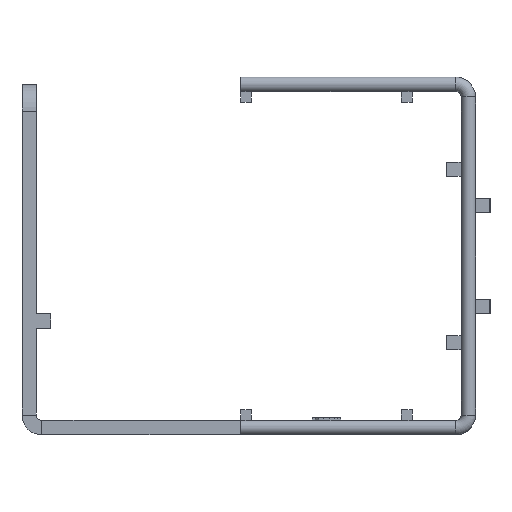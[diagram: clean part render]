
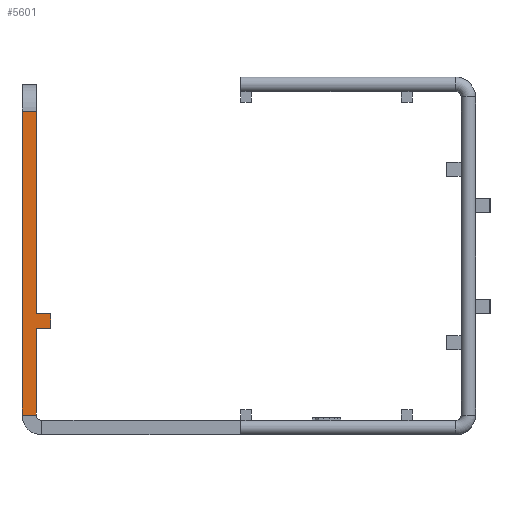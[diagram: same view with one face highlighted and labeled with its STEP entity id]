
A CAD part, left-side view. The second image highlights one B-rep face of the part: STEP entity #5601.
In plain terms, the highlighted planar face has unit normal (-1, 0, 0).
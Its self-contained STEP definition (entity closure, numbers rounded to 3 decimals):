
#199=FACE_OUTER_BOUND('',#509,.T.);
#509=EDGE_LOOP('',(#3839,#3840,#3841,#3842,#3843,#3844,#3845,#3846));
#888=LINE('',#8087,#1644);
#900=LINE('',#8118,#1656);
#906=LINE('',#8130,#1662);
#921=LINE('',#8161,#1677);
#923=LINE('',#8167,#1679);
#926=LINE('',#8172,#1682);
#927=LINE('',#8174,#1683);
#928=LINE('',#8175,#1684);
#1644=VECTOR('',#6480,1000.);
#1656=VECTOR('',#6506,1000.);
#1662=VECTOR('',#6514,1000.);
#1677=VECTOR('',#6545,1000.);
#1679=VECTOR('',#6555,1000.);
#1682=VECTOR('',#6560,1000.);
#1683=VECTOR('',#6561,1000.);
#1684=VECTOR('',#6562,1000.);
#2391=VERTEX_POINT('',#8084);
#2392=VERTEX_POINT('',#8086);
#2404=VERTEX_POINT('',#8117);
#2408=VERTEX_POINT('',#8127);
#2409=VERTEX_POINT('',#8129);
#2416=VERTEX_POINT('',#8154);
#2418=VERTEX_POINT('',#8171);
#2419=VERTEX_POINT('',#8173);
#2899=EDGE_CURVE('',#2392,#2391,#888,.T.);
#2914=EDGE_CURVE('',#2392,#2404,#900,.T.);
#2920=EDGE_CURVE('',#2408,#2409,#906,.T.);
#2938=EDGE_CURVE('',#2409,#2416,#921,.T.);
#2941=EDGE_CURVE('',#2391,#2416,#923,.T.);
#2944=EDGE_CURVE('',#2418,#2408,#926,.T.);
#2945=EDGE_CURVE('',#2419,#2418,#927,.T.);
#2946=EDGE_CURVE('',#2419,#2404,#928,.T.);
#3839=ORIENTED_EDGE('',*,*,#2941,.T.);
#3840=ORIENTED_EDGE('',*,*,#2938,.F.);
#3841=ORIENTED_EDGE('',*,*,#2920,.F.);
#3842=ORIENTED_EDGE('',*,*,#2944,.F.);
#3843=ORIENTED_EDGE('',*,*,#2945,.F.);
#3844=ORIENTED_EDGE('',*,*,#2946,.T.);
#3845=ORIENTED_EDGE('',*,*,#2914,.F.);
#3846=ORIENTED_EDGE('',*,*,#2899,.T.);
#5331=PLANE('',#5939);
#5601=ADVANCED_FACE('',(#199),#5331,.T.);
#5939=AXIS2_PLACEMENT_3D('',#8170,#6558,#6559);
#6480=DIRECTION('',(0.,1.,0.));
#6506=DIRECTION('',(0.,0.,-1.));
#6514=DIRECTION('',(0.,0.,-1.));
#6545=DIRECTION('',(0.,1.,0.));
#6555=DIRECTION('',(0.,0.,-1.));
#6558=DIRECTION('center_axis',(-1.,0.,0.));
#6559=DIRECTION('ref_axis',(0.,0.,
1.));
#6560=DIRECTION('',(0.,1.,0.));
#6561=DIRECTION('',(0.,0.,-1.));
#6562=DIRECTION('',(0.,1.,0.));
#8084=CARTESIAN_POINT('',(-62.,60.5,40.));
#8086=CARTESIAN_POINT('',(-62.,56.5,40.));
#8087=CARTESIAN_POINT('',(-62.,60.5,40.));
#8117=CARTESIAN_POINT('',(-62.,56.5,-16.));
#8118=CARTESIAN_POINT('',(-62.,56.5,40.));
#8127=CARTESIAN_POINT('',(-62.,56.5,-20.));
#8129=CARTESIAN_POINT('',(-62.,56.5,-44.));
#8130=CARTESIAN_POINT('',(-62.,56.5,40.));
#8154=CARTESIAN_POINT('',(-62.,60.5,-44.));
#8161=CARTESIAN_POINT('',(-62.,60.5,-44.));
#8167=CARTESIAN_POINT('',(-62.,60.5,40.));
#8170=CARTESIAN_POINT('Origin',(-62.,60.5,40.));
#8171=CARTESIAN_POINT('',(-62.,52.5,-20.));
#8172=CARTESIAN_POINT('',(-62.,52.5,-20.));
#8173=CARTESIAN_POINT('',(-62.,52.5,-16.));
#8174=CARTESIAN_POINT('',(-62.,52.5,-20.));
#8175=CARTESIAN_POINT('',(-62.,52.5,-16.));
